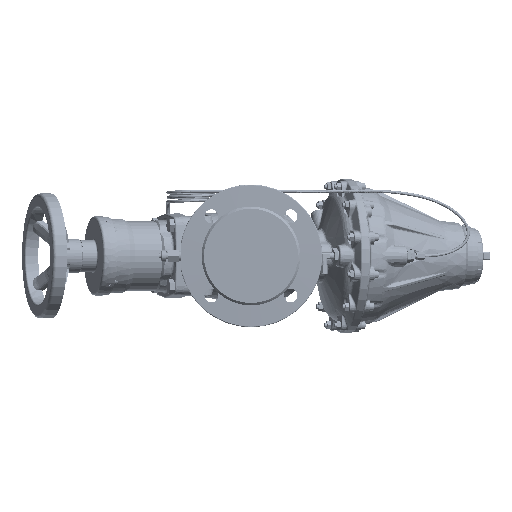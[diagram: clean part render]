
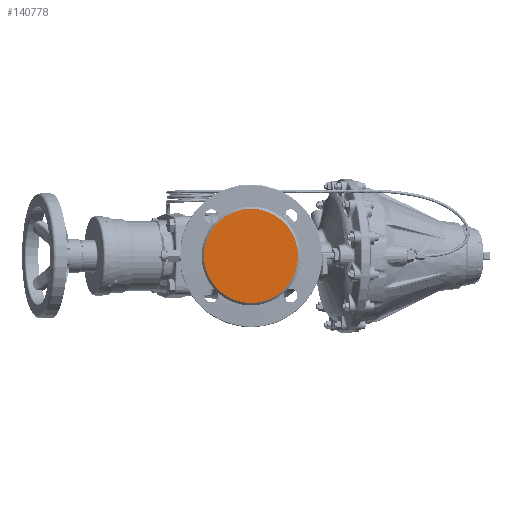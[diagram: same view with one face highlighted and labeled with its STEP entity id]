
A CAD part, left-side view. The second image highlights one B-rep face of the part: STEP entity #140778.
In plain terms, the highlighted planar face has unit normal (-1, 0, 0).
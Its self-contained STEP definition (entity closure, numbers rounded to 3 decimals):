
#377 = AXIS2_PLACEMENT_3D ( 'NONE', #236730, #116170, #156605 ) ;
#19204 = CARTESIAN_POINT ( 'NONE',  ( -137., 0., 0. ) ) ;
#45688 = EDGE_CURVE ( 'NONE', #46638, #134390, #254734, .T. ) ;
#46638 = VERTEX_POINT ( 'NONE', #245675 ) ;
#50902 = AXIS2_PLACEMENT_3D ( 'NONE', #191676, #51898, #192544 ) ;
#51898 = DIRECTION ( 'NONE',  ( -1., 0., 0. ) ) ;
#57051 = DIRECTION ( 'NONE',  ( -1., 0., 0. ) ) ;
#62423 = EDGE_LOOP ( 'NONE', ( #106294, #141728 ) ) ;
#95832 = DIRECTION ( 'NONE',  ( 0., 0., 1. ) ) ;
#106294 = ORIENTED_EDGE ( 'NONE', *, *, #45688, .T. ) ;
#116170 = DIRECTION ( 'NONE',  ( -1., 0., 0. ) ) ;
#130290 = PLANE ( 'NONE',  #50902 ) ;
#134390 = VERTEX_POINT ( 'NONE', #137965 ) ;
#137965 = CARTESIAN_POINT ( 'NONE',  ( -137., 0., 61. ) ) ;
#140778 = ADVANCED_FACE ( 'NONE', ( #217607 ), #130290, .T. ) ;
#141728 = ORIENTED_EDGE ( 'NONE', *, *, #222652, .T. ) ;
#156605 = DIRECTION ( 'NONE',  ( 0., 0., 1. ) ) ;
#177175 = CIRCLE ( 'NONE', #213046, 61. ) ;
#191676 = CARTESIAN_POINT ( 'NONE',  ( -137., -32.5, 0. ) ) ;
#192544 = DIRECTION ( 'NONE',  ( 0., 0., 1. ) ) ;
#213046 = AXIS2_PLACEMENT_3D ( 'NONE', #19204, #57051, #95832 ) ;
#217607 = FACE_OUTER_BOUND ( 'NONE', #62423, .T. ) ;
#222652 = EDGE_CURVE ( 'NONE', #134390, #46638, #177175, .T. ) ;
#236730 = CARTESIAN_POINT ( 'NONE',  ( -137., 0., 0. ) ) ;
#245675 = CARTESIAN_POINT ( 'NONE',  ( -137., 0., -61. ) ) ;
#254734 = CIRCLE ( 'NONE', #377, 61. ) ;
